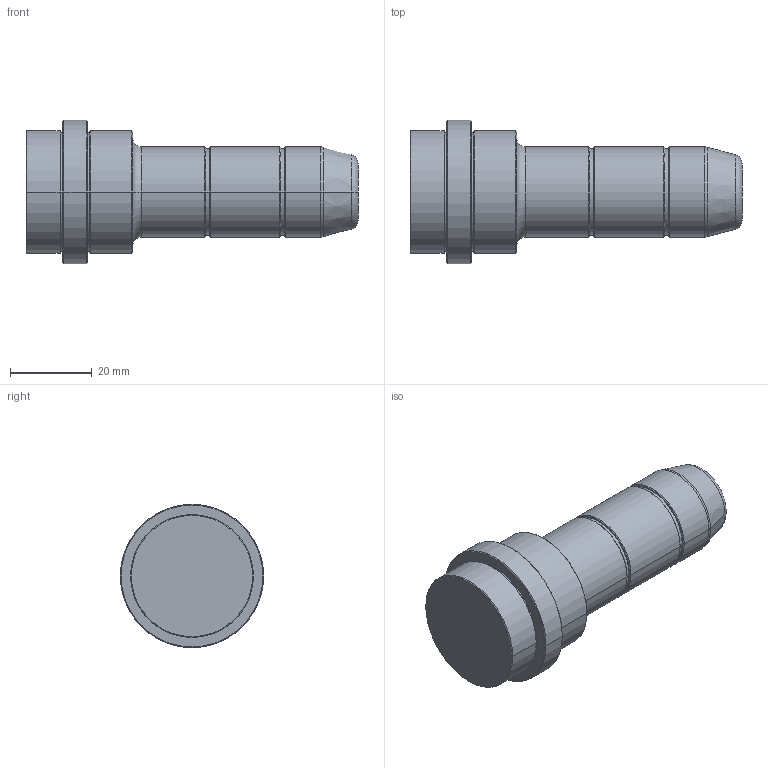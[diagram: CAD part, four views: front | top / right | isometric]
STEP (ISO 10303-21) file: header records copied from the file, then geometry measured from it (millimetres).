
FILE_DESCRIPTION (( 'STEP AP214' ), '1' );
FILE_NAME ('R02_017x22x055.STEP', '2014-12-09T12:13:38', ( '' ), ( '' ), 'SwSTEP 2.0', 'SolidWorks 2014', '' );
FILE_SCHEMA (( 'AUTOMOTIVE_DESIGN' ));
Length unit declared in the file: millimetre
Products named in the file (1): R02_017x22x055
Bounding box: 81 x 35 x 35 mm (x, y, z)
Volume: 40066.1 mm3; surface area: 8195.2 mm2
Topology: 1 solids, 1 shells, 59 faces, 116 edges, 68 vertices
Faces by surface type: cone 22, cylinder 20, plane 11, torus 6
Entity records: 1686 total; most frequent: DIRECTION 310, CARTESIAN_POINT 244, ORIENTED_EDGE 232, AXIS2_PLACEMENT_3D 134, EDGE_CURVE 116, CIRCLE 74, EDGE_LOOP 68, VERTEX_POINT 68
